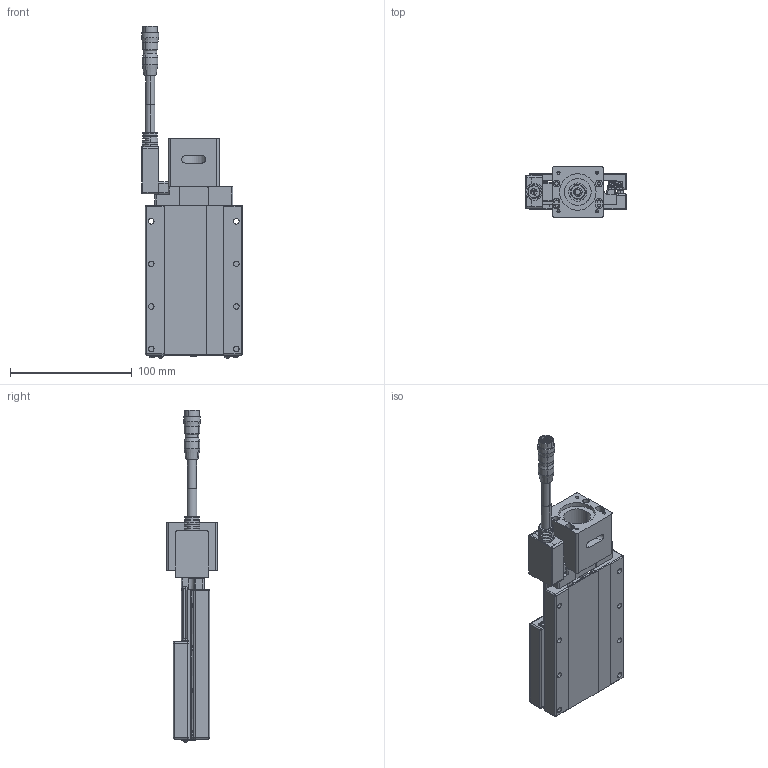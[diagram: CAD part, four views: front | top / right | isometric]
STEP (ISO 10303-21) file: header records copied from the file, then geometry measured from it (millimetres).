
FILE_DESCRIPTION (( 'STEP AP203' ), '1' );
FILE_NAME ('CXS8050(伺服P無馬達).STEP', '2023-12-25T09:01:00', ( '' ), ( '' ), 'SwSTEP 2.0', 'SolidWorks 2019', '' );
FILE_SCHEMA (( 'CONFIG_CONTROL_DESIGN' ));
Length unit declared in the file: millimetre
Products named in the file (6): CXS8050(伺服P無馬達); CXS-H-01; HR10A-10J-12P; Group1^CXS8050(伺服P無馬達)_defeature_GMT; Group2^CXS8050(伺服P無馬達)_defeature_GMT; CXS-P_GMT
Assembly tree (5 placements, depth 2):
  CXS8050(伺服P無馬達)
    Group1^CXS8050(伺服P無馬達)_defeature_GMT
    Group2^CXS8050(伺服P無馬達)_defeature_GMT
    HR10A-10J-12P
    CXS-H-01
    CXS-P_GMT
Bounding box: 83 x 42 x 273.12 mm (x, y, z)
Volume: 105533.9 mm3; surface area: 96266.3 mm2
Topology: 11 solids, 14 shells, 1980 faces, 5011 edges, 3127 vertices
Faces by surface type: plane 997, cylinder 538, cone 223, sphere 140, torus 43, bspline 39
Entity records: 62592 total; most frequent: CARTESIAN_POINT 13586, DIRECTION 10506, ORIENTED_EDGE 9902, EDGE_CURVE 4951, AXIS2_PLACEMENT_3D 3932, VERTEX_POINT 3127, LINE 2642, VECTOR 2642
